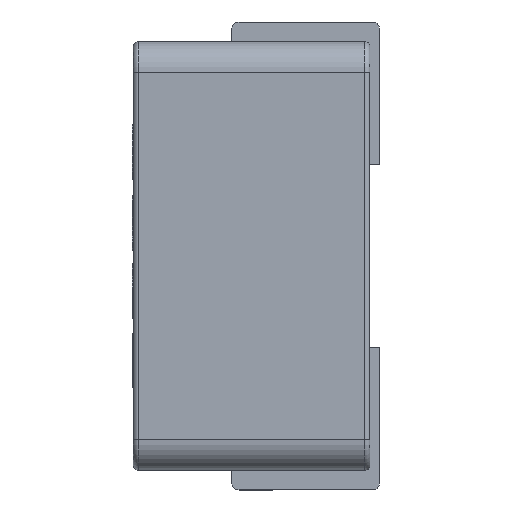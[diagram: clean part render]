
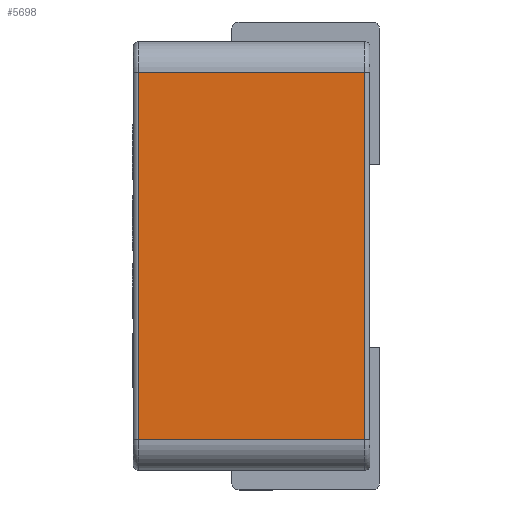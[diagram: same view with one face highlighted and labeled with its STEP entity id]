
A CAD part, left-side view. The second image highlights one B-rep face of the part: STEP entity #5698.
In plain terms, the highlighted planar face has unit normal (-1, 0, 0) as drawn and (0, 0, -1) by its records, which use the part's own axes.
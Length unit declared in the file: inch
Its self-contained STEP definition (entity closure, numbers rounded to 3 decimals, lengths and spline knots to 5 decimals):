
#1056 = ORIENTED_EDGE ( 'NONE', *, *, #15535, .T. ) ;
#1266 = CARTESIAN_POINT ( 'NONE',  ( -0.18625, -0.115, -0.215 ) ) ;
#2594 = EDGE_LOOP ( 'NONE', ( #1056, #4907, #9168, #5549 ) ) ;
#3672 = AXIS2_PLACEMENT_3D ( 'NONE', #17849, #4310, #10328 ) ;
#4310 = DIRECTION ( 'NONE',  ( 0., 0., 1. ) ) ;
#4907 = ORIENTED_EDGE ( 'NONE', *, *, #11052, .T. ) ;
#5180 = VERTEX_POINT ( 'NONE', #1266 ) ;
#5549 = ORIENTED_EDGE ( 'NONE', *, *, #17463, .T. ) ;
#5698 = ADVANCED_FACE ( 'NONE', ( #10128 ), #19318, .F. ) ;
#6109 = VECTOR ( 'NONE', #18221, 39.37008 ) ;
#6184 = VECTOR ( 'NONE', #8457, 39.37008 ) ;
#6676 = DIRECTION ( 'NONE',  ( 0., -1., 0. ) ) ;
#7949 = CARTESIAN_POINT ( 'NONE',  ( 0.18625, 0.115, -0.215 ) ) ;
#7991 = VERTEX_POINT ( 'NONE', #12664 ) ;
#8457 = DIRECTION ( 'NONE',  ( -1., 0., 0. ) ) ;
#9168 = ORIENTED_EDGE ( 'NONE', *, *, #16167, .T. ) ;
#10128 = FACE_OUTER_BOUND ( 'NONE', #2594, .T. ) ;
#10328 = DIRECTION ( 'NONE',  ( 1., 0., 0. ) ) ;
#11052 = EDGE_CURVE ( 'NONE', #12282, #7991, #14105, .T. ) ;
#11231 = LINE ( 'NONE', #18725, #16899 ) ;
#11340 = CARTESIAN_POINT ( 'NONE',  ( -0.18625, 0.115, -0.215 ) ) ;
#12059 = VERTEX_POINT ( 'NONE', #11340 ) ;
#12282 = VERTEX_POINT ( 'NONE', #7949 ) ;
#12626 = CARTESIAN_POINT ( 'NONE',  ( 0.18625, -0.12, -0.215 ) ) ;
#12664 = CARTESIAN_POINT ( 'NONE',  ( 0.18625, -0.115, -0.215 ) ) ;
#14105 = LINE ( 'NONE', #12626, #19021 ) ;
#14876 = CARTESIAN_POINT ( 'NONE',  ( -0.18625, -0.12, -0.215 ) ) ;
#15535 = EDGE_CURVE ( 'NONE', #12059, #12282, #11231, .T. ) ;
#15983 = LINE ( 'NONE', #17567, #6184 ) ;
#16167 = EDGE_CURVE ( 'NONE', #7991, #5180, #15983, .T. ) ;
#16899 = VECTOR ( 'NONE', #17253, 39.37008 ) ;
#17253 = DIRECTION ( 'NONE',  ( 1., 0., 0. ) ) ;
#17463 = EDGE_CURVE ( 'NONE', #5180, #12059, #17835, .T. ) ;
#17567 = CARTESIAN_POINT ( 'NONE',  ( -0.2175, -0.115, -0.215 ) ) ;
#17835 = LINE ( 'NONE', #14876, #6109 ) ;
#17849 = CARTESIAN_POINT ( 'NONE',  ( -0.2175, -0.12, -0.215 ) ) ;
#18221 = DIRECTION ( 'NONE',  ( 0., 1., 0. ) ) ;
#18725 = CARTESIAN_POINT ( 'NONE',  ( -0.2175, 0.115, -0.215 ) ) ;
#19021 = VECTOR ( 'NONE', #6676, 39.37008 ) ;
#19318 = PLANE ( 'NONE',  #3672 ) ;
